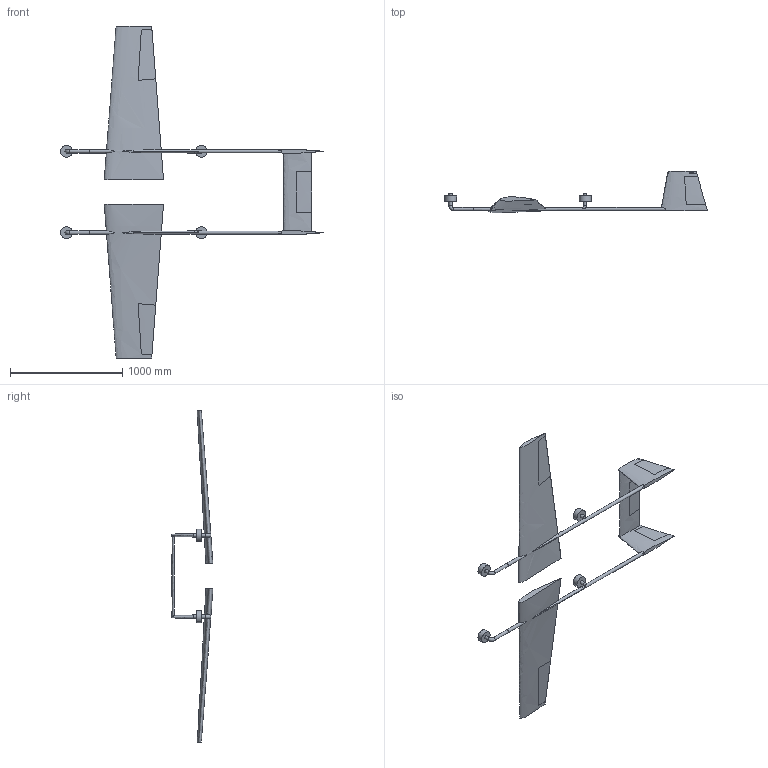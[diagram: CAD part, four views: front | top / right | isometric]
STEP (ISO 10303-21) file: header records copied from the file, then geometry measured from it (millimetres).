
FILE_DESCRIPTION(/* description */ (''),/* implementation_level */ '2;1');
FILE_NAME(/* name */ 'Wing Group.step',/* time_stamp */ '2026-10-11T15:43:06+05:30',/* author */ (''),/* organization */ (''),/* preprocessor_version */ 'ST-DEVELOPER v20.2',/* originating_system */ 'Autodesk Translation Framework v15.15.0.0',/* authorisation */ '');
FILE_SCHEMA (('AUTOMOTIVE_DESIGN { 1 0 10303 214 3 1 1 }'));
Length unit declared in the file: centimetre
Products named in the file (1): 2026-10-11-00-10-32-398
Bounding box: 2341.38 x 372.06 x 2958 mm (x, y, z)
Volume: 67680063.7 mm3; surface area: 5054657.1 mm2
Topology: 7 solids, 7 shells, 111 faces, 249 edges, 164 vertices
Faces by surface type: plane 69, cylinder 22, bspline 16, torus 4
Full cylindrical faces by diameter (mm): 29 x4, 30 x10, 106.8 x4
Entity records: 15039 total; most frequent: CARTESIAN_POINT 12749, ORIENTED_EDGE 498, DIRECTION 387, EDGE_CURVE 249, VERTEX_POINT 164, AXIS2_PLACEMENT_3D 152, EDGE_LOOP 123, FACE_OUTER_BOUND 111
